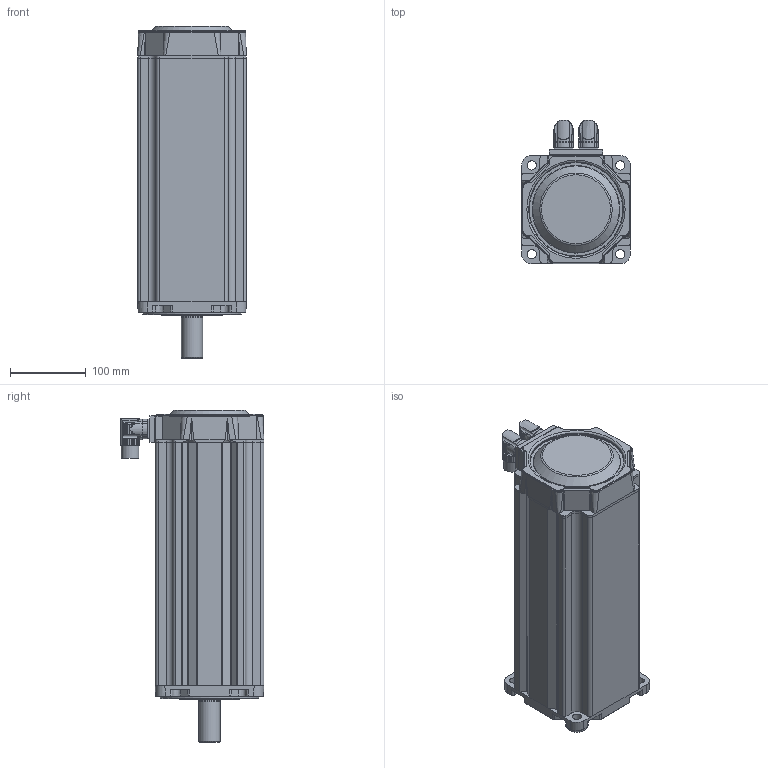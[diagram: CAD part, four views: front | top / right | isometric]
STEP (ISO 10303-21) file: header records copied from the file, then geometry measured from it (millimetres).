
FILE_DESCRIPTION((''),'2;1');
FILE_NAME('C:\CAD_work\Dummy_Modeling_Project_02-12-05\3D MODELS\MPP1428XXX_NPSB.stp','2005-12-20T17:33:32',('jevans'),(''),'Autodesk Inventor 10','Autodesk Inventor 10','');
FILE_SCHEMA(('AUTOMOTIVE_DESIGN { 1 0 10303 214 1 1 1 1 }'));
Length unit declared in the file: inch
Products named in the file (1): MPP142_MOTOR
Bounding box: 142.75 x 188.8 x 436.88 mm (x, y, z)
Volume: 6628006.7 mm3; surface area: 319629.3 mm2
Topology: 3 solids, 3 shells, 905 faces, 2284 edges, 1422 vertices
Faces by surface type: bspline 336, cylinder 287, plane 224, cone 35, torus 21, sphere 2
Full cylindrical faces by diameter (mm): 1.143 x17, 2.032 x6, 2.794 x2, 19.05 x1, 19.685 x1, 22.86 x1, 27.645 x1, 28.001 x1, 29.921 x1, 29.997 x1, 36.83 x1, 55.88 x1, 66.04 x1, 71.526 x1, 72.009 x1, 72.034 x2, 76.352 x1, 80.95 x1, 124.46 x1, 129.997 x1
Entity records: 37224 total; most frequent: CARTESIAN_POINT 17760, ORIENTED_EDGE 4334, DIRECTION 3475, EDGE_CURVE 2167, VERTEX_POINT 1398, AXIS2_PLACEMENT_3D 1344, EDGE_LOOP 1053, FACE_OUTER_BOUND 905
